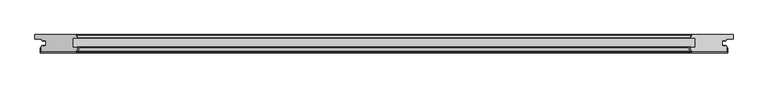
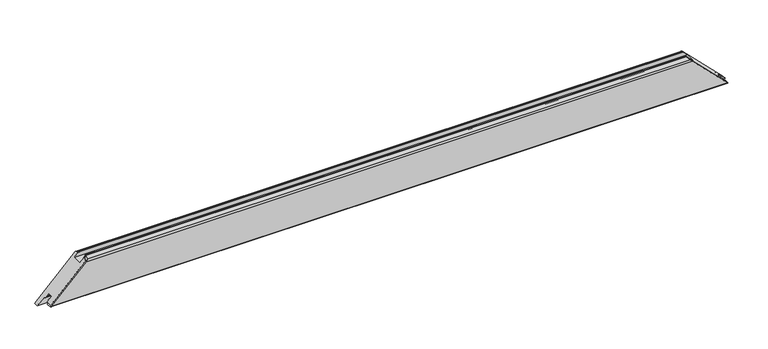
"""IFC4 building model written with IfcOpenShell, lengths in millimetres: proxy geometry, Weiku - Montante - Folha 02.2.01.019-039 : Weiku - Montante - Folha 02.2.01.019-039."""

from ifc_helpers import new_model, si_unit, frame, origin, place, context, project, spatial, polyline, ellipse_curve, source, transform, mapped, element, save
from ifc_brep_helpers import plane_surface, cylinder_surface, revolved_surface, advanced_brep


def generic_models_14880dd0(model_context):
    return source(origin(), model_context, "Body", "AdvancedBrep", [
        advanced_brep(
        [(1003.5000338, -50.0, 17.9999662), (1003.5000338, -33.1, 17.9999662), (999.3, -33.1, 22.2), (999.3, -31.1, 22.2), (996.5, -31.1, 25.0), (996.5, -33.1, 25.0), (990.0, -33.1, 31.5), (990.0, -16.9, 31.5), (996.5, -16.9, 25.0), (996.5, -18.9, 25.0), (999.3, -18.9, 22.2), (999.3, -16.9, 22.2), (1001.5, -16.9, 20.0), (1001.5, -12.5, 20.0), (1021.5, -12.5, 0.0), (1021.5, 0.0, 0.0), (900.9852854, 0.0, 120.5147146), (900.0913247, -0.5518546, 121.4086753), (896.5493385, -7.617411, 124.9506615), (897.7114874, -9.5, 123.7885126), (910.498059, -9.5, 111.001941), (910.498059, -37.5, 111.001941), (896.998059, -37.5, 124.501941), (896.5150961, -38.1294095, 124.9849039), (899.1000147, -47.7764571, 122.3999853), (901.9977922, -50.0, 119.5022078), (-901.9977922, -50.0, 119.5022078), (-899.1000147, -47.7764571, 122.3999853), (-896.5150961, -38.1294095, 124.9849039), (-896.998059, -37.5, 124.501941), (-910.498059, -37.5, 111.001941), (-910.498059, -9.5, 111.001941), (-897.7114874, -9.5, 123.7885126), (-896.5493385, -7.617411, 124.9506615), (-900.0913247, -0.5518546, 121.4086753), (-900.9852854, 0.0, 120.5147146), (-1021.5, 0.0, 0.0), (-1021.5, -12.5, 0.0), (-1001.5, -12.5, 20.0), (-1001.5, -16.9, 20.0), (-999.3, -16.9, 22.2), (-999.3, -18.9, 22.2), (-996.5, -18.9, 25.0), (-996.5, -16.9, 25.0), (-990.0, -16.9, 31.5), (-990.0, -33.1, 31.5), (-996.5, -33.1, 25.0), (-996.5, -31.1, 25.0), (-999.3, -31.1, 22.2), (-999.3, -33.1, 22.2), (-1003.5000338, -33.1, 17.9999662), (-1003.5000338, -50.0, 17.9999662)],
        [
            (0, 1),
            (1, 2),
            (2, 3),
            (3, 4),
            (4, 5),
            (5, 6),
            (6, 7),
            (7, 8),
            (8, 9),
            (9, 10),
            (10, 11),
            (11, 12),
            (12, 13),
            (13, 14),
            (14, 15),
            (15, 16),
            (16, 17, ellipse_curve(frame((900.9852854, -1.0, 120.5147146), z_axis=(0.7071067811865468, 0.0, 0.7071067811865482), x_axis=(-0.7071067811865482, 0.0, 0.7071067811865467)), 1.4142136, 1.0)),
            (17, 18),
            (18, 19, ellipse_curve(frame((897.7114874, -8.2, 123.7885126), z_axis=(0.7071067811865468, 0.0, 0.7071067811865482), x_axis=(-0.7071067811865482, 0.0, 0.7071067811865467)), 1.8384776, 1.3)),
            (19, 20),
            (20, 21),
            (21, 22),
            (22, 23, ellipse_curve(frame((896.998059, -38.0, 124.501941), z_axis=(0.7071067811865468, 0.0, 0.7071067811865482), x_axis=(-0.7071067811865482, 0.0, 0.7071067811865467)), 0.7071068, 0.5)),
            (23, 24),
            (24, 25, ellipse_curve(frame((901.9977922, -47.0, 119.5022078), z_axis=(0.7071067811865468, 0.0, 0.7071067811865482), x_axis=(-0.7071067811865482, 0.0, 0.7071067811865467)), 4.2426407, 3.0)),
            (25, 0),
            (26, 27, ellipse_curve(frame((-901.9977922, -47.0, 119.5022078), z_axis=(-0.7071067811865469, 0.0, 0.7071067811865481), x_axis=(-0.7071067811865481, 0.0, -0.7071067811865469)), 4.2426407, 3.0)),
            (27, 28),
            (28, 29, ellipse_curve(frame((-896.998059, -38.0, 124.501941), z_axis=(-0.7071067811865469, 0.0, 0.7071067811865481), x_axis=(-0.7071067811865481, 0.0, -0.7071067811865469)), 0.7071068, 0.5)),
            (29, 30),
            (30, 31),
            (31, 32),
            (32, 33, ellipse_curve(frame((-897.7114874, -8.2, 123.7885126), z_axis=(-0.7071067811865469, 0.0, 0.7071067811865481), x_axis=(-0.7071067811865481, 0.0, -0.7071067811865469)), 1.8384776, 1.3)),
            (33, 34),
            (34, 35, ellipse_curve(frame((-900.9852854, -1.0, 120.5147146), z_axis=(-0.7071067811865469, 0.0, 0.7071067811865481), x_axis=(-0.7071067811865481, 0.0, -0.7071067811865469)), 1.4142136, 1.0)),
            (35, 36),
            (36, 37),
            (37, 38),
            (38, 39),
            (39, 40),
            (40, 41),
            (41, 42),
            (42, 43),
            (43, 44),
            (44, 45),
            (45, 46),
            (46, 47),
            (47, 48),
            (48, 49),
            (49, 50),
            (50, 51),
            (51, 26),
            (25, 26),
            (51, 0),
            (50, 1),
            (49, 2),
            (48, 3),
            (47, 4),
            (46, 5),
            (45, 6),
            (44, 7),
            (43, 8),
            (42, 9),
            (41, 10),
            (40, 11),
            (39, 12),
            (38, 13),
            (37, 14),
            (36, 15),
            (35, 16),
            (34, 17),
            (33, 18),
            (32, 19),
            (31, 20),
            (30, 21),
            (29, 22),
            (28, 23),
            (27, 24),
        ],
        [
            plane_surface(frame((891.5, 13.0, 130.0), z_axis=(0.7071067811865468, 0.0, 0.7071067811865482), x_axis=(0.0, -1.0, 0.0))),
            plane_surface(frame((-1049.7842712, 13.0, -28.2842712), z_axis=(-0.7071067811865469, 0.0, 0.7071067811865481), x_axis=(0.0, -1.0, 0.0))),
            plane_surface(frame((-1021.5, -50.0, 119.5022078), z_axis=(0.0, -1.0, 0.0), x_axis=(1.0, 0.0, 0.0))),
            plane_surface(frame((-1021.5, -50.0, 17.9999662), z_axis=(0.0, 0.0, -1.0), x_axis=(1.0, 0.0, 0.0))),
            plane_surface(frame((-1021.5, -33.1, 17.9999662), z_axis=(0.0, 1.0, 0.0), x_axis=(1.0, 0.0, 0.0))),
            plane_surface(frame((-1021.5, -33.1, 22.2), z_axis=(0.0, 0.0, -1.0), x_axis=(1.0, 0.0, 0.0))),
            plane_surface(frame((-1021.5, -31.1, 22.2), z_axis=(0.0, 1.0, 0.0), x_axis=(1.0, 0.0, 0.0))),
            plane_surface(frame((-1021.5, -31.1, 25.0), z_axis=(0.0, 0.0, 1.0), x_axis=(1.0, 0.0, 0.0))),
            plane_surface(frame((-1021.5, -33.1, 25.0), z_axis=(0.0, 1.0, 0.0), x_axis=(1.0, 0.0, 0.0))),
            plane_surface(frame((-1021.5, -33.1, 31.5), z_axis=(0.0, 0.0, -1.0), x_axis=(1.0, 0.0, 0.0))),
            plane_surface(frame((-1021.5, -16.9, 31.5), z_axis=(0.0, -1.0, 0.0), x_axis=(1.0, 0.0, 0.0))),
            plane_surface(frame((-1021.5, -16.9, 25.0), z_axis=(0.0, 0.0, 1.0), x_axis=(1.0, 0.0, 0.0))),
            plane_surface(frame((-1021.5, -18.9, 25.0), z_axis=(0.0, -1.0, 0.0), x_axis=(1.0, 0.0, 0.0))),
            plane_surface(frame((-1021.5, -18.9, 22.2), z_axis=(0.0, 0.0, -1.0), x_axis=(1.0, 0.0, 0.0))),
            plane_surface(frame((-1021.5, -16.9, 22.2), z_axis=(0.0, -1.0, 0.0), x_axis=(1.0, 0.0, 0.0))),
            plane_surface(frame((-1021.5, -16.9, 20.0), z_axis=(0.0, 0.0, -1.0), x_axis=(1.0, 0.0, 0.0))),
            plane_surface(frame((-1021.5, -12.5, 20.0), z_axis=(0.0, -1.0, 0.0), x_axis=(1.0, 0.0, 0.0))),
            plane_surface(frame((-1021.5, -12.5, 0.0), z_axis=(0.0, 0.0, -1.0), x_axis=(1.0, 0.0, 0.0))),
            plane_surface(frame((-1021.5, 0.0, 0.0), z_axis=(0.0, 1.0, 0.0), x_axis=(1.0, 0.0, 0.0))),
            cylinder_surface(frame((-1021.5, -1.0, 120.5147146), z_axis=(-1.0, 0.0, 0.0), x_axis=(0.0, -1.0, 0.0)), 1.0),
            plane_surface(frame((-1021.5, -0.5518546, 121.4086753), z_axis=(0.0, 0.4481453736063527, 0.8939606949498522), x_axis=(1.0, 0.0, 0.0))),
            cylinder_surface(frame((-1021.5, -8.2, 123.7885126), z_axis=(-1.0, 0.0, 0.0), x_axis=(0.0, -1.0, 0.0)), 1.3),
            plane_surface(frame((-1021.5, -9.5, 123.7885126), z_axis=(0.0, -1.0, 0.0), x_axis=(1.0, 0.0, 0.0))),
            plane_surface(frame((-1021.5, -9.5, 111.001941), z_axis=(0.0, 0.0, 1.0), x_axis=(1.0, 0.0, 0.0))),
            plane_surface(frame((-1021.5, -37.5, 111.001941), z_axis=(0.0, 1.0, 0.0), x_axis=(1.0, 0.0, 0.0))),
            cylinder_surface(frame((-1021.5, -38.0, 124.501941), z_axis=(-1.0, 0.0, 0.0), x_axis=(0.0, -1.0, 0.0)), 0.5),
            plane_surface(frame((-1021.5, -38.1294095, 124.9849039), z_axis=(0.0, -0.2588190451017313, 0.9659258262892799), x_axis=(1.0, 0.0, 0.0))),
            cylinder_surface(frame((-1021.5, -47.0, 119.5022078), z_axis=(-1.0, 0.0, 0.0), x_axis=(0.0, -1.0, 0.0)), 3.0),
        ],
        [
            (0, [[1, 2, 3, 4, 5, 6, 7, 8, 9, 10, 11, 12, 13, 14, 15, 16, 17, 18, 19, 20, 21, 22, 23, 24, 25, 26]]),
            (1, [[27, 28, 29, 30, 31, 32, 33, 34, 35, 36, 37, 38, 39, 40, 41, 42, 43, 44, 45, 46, 47, 48, 49, 50, 51, 52]]),
            (2, [[53, -52, 54, -26]]),
            (3, [[-54, -51, 55, -1]]),
            (4, [[-55, -50, 56, -2]]),
            (5, [[-56, -49, 57, -3]]),
            (6, [[-57, -48, 58, -4]]),
            (7, [[-58, -47, 59, -5]]),
            (8, [[-59, -46, 60, -6]]),
            (9, [[-60, -45, 61, -7]]),
            (10, [[-61, -44, 62, -8]]),
            (11, [[-62, -43, 63, -9]]),
            (12, [[-63, -42, 64, -10]]),
            (13, [[-64, -41, 65, -11]]),
            (14, [[-65, -40, 66, -12]]),
            (15, [[-66, -39, 67, -13]]),
            (16, [[-14, -67, -38, 68]]),
            (17, [[-37, 69, -15, -68]]),
            (18, [[-36, 70, -16, -69]]),
            (19, [[-70, -35, 71, -17]]),
            (20, [[-71, -34, 72, -18]]),
            (21, [[-72, -33, 73, -19]]),
            (22, [[-73, -32, 74, -20]]),
            (23, [[-74, -31, 75, -21]]),
            (24, [[-75, -30, 76, -22]]),
            (25, [[-76, -29, 77, -23]]),
            (26, [[-77, -28, 78, -24]]),
            (27, [[-78, -27, -53, -25]]),
        ],
    ),
        advanced_brep(
        [(901.9977922, -50.0, 119.5022078), (899.1000147, -47.7764571, 122.3999853), (896.5150961, -38.1294095, 124.9849039), (896.998059, -37.5, 124.501941), (897.8540691, -37.5, 123.6459309), (897.8540691, -36.5, 123.6459309), (893.2406177, -36.5, 128.2593823), (892.2746919, -37.758819, 129.2253081), (895.633509, -50.2940952, 125.866491), (900.4631382, -54.0, 121.0368618), (1004.5000338, -54.0, 16.9999662), (1006.5000338, -52.0, 14.9999662), (1006.5000338, -38.5, 14.9999662), (1003.5000338, -38.5, 17.9999662), (1003.5000338, -50.0, 17.9999662), (-1003.5000338, -50.0, 17.9999662), (-1003.5000338, -38.5, 17.9999662), (-1006.5000338, -38.5, 14.9999662), (-1006.5000338, -52.0, 14.9999662), (-1004.5000338, -54.0, 16.9999662), (-900.4631382, -54.0, 121.0368618), (-895.633509, -50.2940952, 125.866491), (-892.2746919, -37.758819, 129.2253081), (-893.2406177, -36.5, 128.2593823), (-897.8540691, -36.5, 123.6459309), (-897.8540691, -37.5, 123.6459309), (-896.998059, -37.5, 124.501941), (-896.5150961, -38.1294095, 124.9849039), (-899.1000147, -47.7764571, 122.3999853), (-901.9977922, -50.0, 119.5022078)],
        [
            (0, 1, ellipse_curve(frame((901.9977922, -47.0, 119.5022078), z_axis=(-0.7071067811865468, 0.0, -0.7071067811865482), x_axis=(0.7071067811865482, 0.0, -0.7071067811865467)), 4.2426407, 3.0)),
            (1, 2),
            (2, 3, ellipse_curve(frame((896.998059, -38.0, 124.501941), z_axis=(-0.7071067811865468, 0.0, -0.7071067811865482), x_axis=(0.7071067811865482, 0.0, -0.7071067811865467)), 0.7071068, 0.5)),
            (3, 4),
            (4, 5, ellipse_curve(frame((897.8540691, -37.0, 123.6459309), z_axis=(0.7071067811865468, 0.0, 0.7071067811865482), x_axis=(-0.7071067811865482, 0.0, 0.7071067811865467)), 0.7071068, 0.5)),
            (5, 6),
            (6, 7, ellipse_curve(frame((893.2406177, -37.5, 128.2593823), z_axis=(0.7071067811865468, 0.0, 0.7071067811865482), x_axis=(-0.7071067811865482, 0.0, 0.7071067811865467)), 1.4142136, 1.0)),
            (7, 8),
            (8, 9, ellipse_curve(frame((900.4631382, -49.0, 121.0368618), z_axis=(0.7071067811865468, 0.0, 0.7071067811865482), x_axis=(-0.7071067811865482, 0.0, 0.7071067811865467)), 7.0710678, 5.0)),
            (9, 10),
            (10, 11, ellipse_curve(frame((1004.5000338, -52.0, 16.9999662), z_axis=(0.7071067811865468, 0.0, 0.7071067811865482), x_axis=(-0.7071067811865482, 0.0, 0.7071067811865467)), 2.8284271, 2.0)),
            (11, 12),
            (12, 13),
            (13, 14),
            (14, 0),
            (15, 16),
            (16, 17),
            (17, 18),
            (18, 19, ellipse_curve(frame((-1004.5000338, -52.0, 16.9999662), z_axis=(-0.7071067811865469, 0.0, 0.7071067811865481), x_axis=(-0.7071067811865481, 0.0, -0.7071067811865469)), 2.8284271, 2.0)),
            (19, 20),
            (20, 21, ellipse_curve(frame((-900.4631382, -49.0, 121.0368618), z_axis=(-0.7071067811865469, 0.0, 0.7071067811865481), x_axis=(-0.7071067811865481, 0.0, -0.7071067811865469)), 7.0710678, 5.0)),
            (21, 22),
            (22, 23, ellipse_curve(frame((-893.2406177, -37.5, 128.2593823), z_axis=(-0.7071067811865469, 0.0, 0.7071067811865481), x_axis=(-0.7071067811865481, 0.0, -0.7071067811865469)), 1.4142136, 1.0)),
            (23, 24),
            (24, 25, ellipse_curve(frame((-897.8540691, -37.0, 123.6459309), z_axis=(-0.7071067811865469, 0.0, 0.7071067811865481), x_axis=(-0.7071067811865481, 0.0, -0.7071067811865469)), 0.7071068, 0.5)),
            (25, 26),
            (26, 27, ellipse_curve(frame((-896.998059, -38.0, 124.501941), z_axis=(0.7071067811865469, 0.0, -0.7071067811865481), x_axis=(0.7071067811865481, 0.0, 0.7071067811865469)), 0.7071068, 0.5)),
            (27, 28),
            (28, 29, ellipse_curve(frame((-901.9977922, -47.0, 119.5022078), z_axis=(0.7071067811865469, 0.0, -0.7071067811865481), x_axis=(0.7071067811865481, 0.0, 0.7071067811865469)), 4.2426407, 3.0)),
            (29, 15),
            (14, 15),
            (29, 0),
            (28, 1),
            (27, 2),
            (26, 3),
            (25, 4),
            (24, 5),
            (23, 6),
            (22, 7),
            (21, 8),
            (20, 9),
            (19, 10),
            (18, 11),
            (17, 12),
            (16, 13),
        ],
        [
            plane_surface(frame((891.5, 13.0, 130.0), z_axis=(0.7071067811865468, 0.0, 0.7071067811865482), x_axis=(0.0, -1.0, 0.0))),
            plane_surface(frame((-1049.7842712, 13.0, -28.2842712), z_axis=(-0.7071067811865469, 0.0, 0.7071067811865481), x_axis=(0.0, -1.0, 0.0))),
            plane_surface(frame((-1041.5, -50.0, 17.9999662), z_axis=(0.0, 1.0, 0.0), x_axis=(1.0, 0.0, 0.0))),
            revolved_surface(polyline([(904.9977922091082, -50.0, 119.5022078), (-904.9977922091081, -50.0, 119.5022078)]), (-1041.5, -47.0, 119.5022078), (1.0, 0.0, 0.0)),
            plane_surface(frame((-1041.5, -47.7764571, 122.3999853), z_axis=(0.0, 0.25881904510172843, -0.9659258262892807), x_axis=(1.0, 0.0, 0.0))),
            revolved_surface(polyline([(897.4980590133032, -38.5, 124.501941), (-897.4980590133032, -38.5, 124.501941)]), (-1041.5, -38.0, 124.501941), (1.0, 0.0, 0.0)),
            plane_surface(frame((-1041.5, -37.5, 124.501941), z_axis=(0.0, -1.0, 0.0), x_axis=(1.0, 0.0, 0.0))),
            cylinder_surface(frame((-1041.5, -37.0, 123.6459309), z_axis=(-1.0, 0.0, 0.0), x_axis=(0.0, -1.0, 0.0)), 0.5),
            plane_surface(frame((-1041.5, -36.5, 123.6459309), z_axis=(0.0, 1.0, 0.0), x_axis=(1.0, 0.0, 0.0))),
            cylinder_surface(frame((-1041.5, -37.5, 128.2593823), z_axis=(-1.0, 0.0, 0.0), x_axis=(0.0, -1.0, 0.0)), 1.0),
            plane_surface(frame((-1041.5, -37.758819, 129.2253081), z_axis=(0.0, -0.25881904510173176, 0.9659258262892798), x_axis=(1.0, 0.0, 0.0))),
            cylinder_surface(frame((-1041.5, -49.0, 121.0368618), z_axis=(-1.0, 0.0, 0.0), x_axis=(0.0, -1.0, 0.0)), 5.0),
            plane_surface(frame((-1041.5, -54.0, 121.0368618), z_axis=(0.0, -1.0, 0.0), x_axis=(1.0, 0.0, 0.0))),
            cylinder_surface(frame((-1041.5, -52.0, 16.9999662), z_axis=(-1.0, 0.0, 0.0), x_axis=(0.0, -1.0, 0.0)), 2.0),
            plane_surface(frame((-1041.5, -52.0, 14.9999662), z_axis=(0.0, 0.0, -1.0), x_axis=(1.0, 0.0, 0.0))),
            plane_surface(frame((-1041.5, -38.5, 14.9999662), z_axis=(0.0, 1.0, 0.0), x_axis=(1.0, 0.0, 0.0))),
            plane_surface(frame((-1041.5, -38.5, 17.9999662), z_axis=(0.0, 0.0, 1.0), x_axis=(1.0, 0.0, 0.0))),
        ],
        [
            (0, [[1, 2, 3, 4, 5, 6, 7, 8, 9, 10, 11, 12, 13, 14, 15]]),
            (1, [[16, 17, 18, 19, 20, 21, 22, 23, 24, 25, 26, 27, 28, 29, 30]]),
            (2, [[31, -30, 32, -15]]),
            (3, [[-32, -29, 33, -1]]),
            (4, [[-33, -28, 34, -2]]),
            (5, [[-34, -27, 35, -3]]),
            (6, [[-35, -26, 36, -4]]),
            (7, [[-36, -25, 37, -5]]),
            (8, [[-37, -24, 38, -6]]),
            (9, [[-38, -23, 39, -7]]),
            (10, [[-39, -22, 40, -8]]),
            (11, [[-40, -21, 41, -9]]),
            (12, [[-41, -20, 42, -10]]),
            (13, [[-42, -19, 43, -11]]),
            (14, [[-43, -18, 44, -12]]),
            (15, [[-44, -17, 45, -13]]),
            (16, [[-45, -16, -31, -14]]),
        ],
    ),
    ])


if __name__ == "__main__":
    model = new_model("IFC4")
    model_context = context("Model", 3, world=origin())
    ifc_project = project(units=[si_unit("LENGTHUNIT", "METRE", prefix="MILLI")], contexts=[model_context])
    site = spatial("IfcSite", under=ifc_project)
    building = spatial("IfcBuilding", under=site)
    placement = place(None, origin())
    generic_models_shape = generic_models_14880dd0(model_context)
    element("IfcBuildingElementProxy", 1, Name="Weiku - Montante - Folha 02.2.01.019-039 : Weiku - Montante - Folha 02.2.01.019-039", ObjectType="Weiku - Montante - Folha 02.2.01.019-039 : Weiku - Montante - Folha 02.2.01.019-039", at=placement, inside=building, context=model_context, shape_type="MappedRepresentation", body=[
        mapped(generic_models_shape, transform((0.0, 0.0, 0.0), x_axis=(1.0, 0.0, 0.0), y_axis=(0.0, 1.0, 0.0), z_axis=(0.0, 0.0, 1.0))),
    ])
    save(model, "model.ifc")
